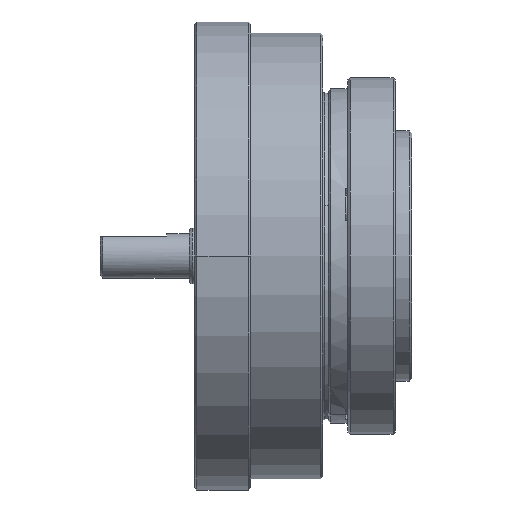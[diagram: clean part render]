
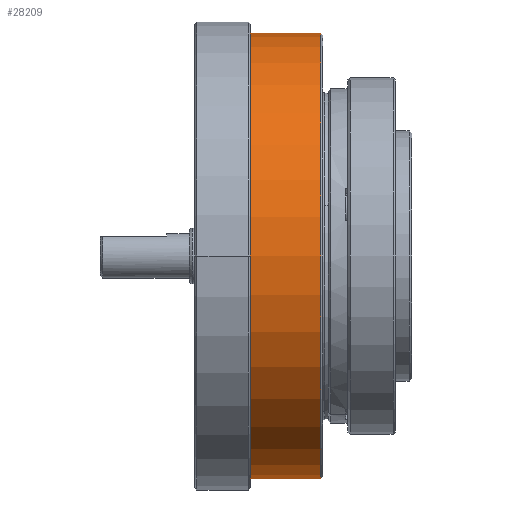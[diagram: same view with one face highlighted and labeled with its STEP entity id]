
A CAD part, front view. The second image highlights one B-rep face of the part: STEP entity #28209.
In plain terms, the highlighted cylindrical face has radius 40 mm (diameter 80 mm), a partial arc.
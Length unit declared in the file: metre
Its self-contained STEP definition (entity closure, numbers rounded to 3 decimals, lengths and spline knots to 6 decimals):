
#310 = VECTOR ( 'NONE', #48403, 1. ) ;
#2903 = CARTESIAN_POINT ( 'NONE',  ( 0.0034, 0., 0.04 ) ) ;
#7271 = EDGE_CURVE ( 'NONE', #39264, #31819, #46524, .T. ) ;
#7517 = DIRECTION ( 'NONE',  ( -1., 0., 0. ) ) ;
#7825 = DIRECTION ( 'NONE',  ( -1., 0., 0. ) ) ;
#10265 = ORIENTED_EDGE ( 'NONE', *, *, #7271, .T. ) ;
#10882 = CYLINDRICAL_SURFACE ( 'NONE', #46147, 0.04 ) ;
#10890 = CARTESIAN_POINT ( 'NONE',  ( 0.0034, 0., -0.04 ) ) ;
#11120 = CARTESIAN_POINT ( 'NONE',  ( 0.0034, 0., 0. ) ) ;
#13641 = CARTESIAN_POINT ( 'NONE',  ( 0.003, 0., 0.04 ) ) ;
#14157 = EDGE_CURVE ( 'NONE', #54170, #45267, #44643, .T. ) ;
#17303 = LINE ( 'NONE', #13641, #53701 ) ;
#17548 = CIRCLE ( 'NONE', #51563, 0.04 ) ;
#17923 = DIRECTION ( 'NONE',  ( -1., 0., 0. ) ) ;
#20641 = CARTESIAN_POINT ( 'NONE',  ( 0.0034, 0., 0. ) ) ;
#21006 = CARTESIAN_POINT ( 'NONE',  ( 0.0186, 0., -0.04 ) ) ;
#23904 = ORIENTED_EDGE ( 'NONE', *, *, #25024, .F. ) ;
#25024 = EDGE_CURVE ( 'NONE', #39264, #38490, #49605, .T. ) ;
#28209 = ADVANCED_FACE ( 'NONE', ( #52534 ), #10882, .T. ) ;
#30064 = AXIS2_PLACEMENT_3D ( 'NONE', #20641, #40087, #58620 ) ;
#31819 = VERTEX_POINT ( 'NONE', #40918 ) ;
#33995 = ORIENTED_EDGE ( 'NONE', *, *, #14157, .T. ) ;
#35311 = CARTESIAN_POINT ( 'NONE',  ( 0.003, 0., -0.04 ) ) ;
#37888 = DIRECTION ( 'NONE',  ( 0., 0., 1. ) ) ;
#38490 = VERTEX_POINT ( 'NONE', #10890 ) ;
#39264 = VERTEX_POINT ( 'NONE', #21006 ) ;
#40087 = DIRECTION ( 'NONE',  ( 1., 0., 0. ) ) ;
#40613 = ORIENTED_EDGE ( 'NONE', *, *, #45476, .T. ) ;
#40918 = CARTESIAN_POINT ( 'NONE',  ( 0.0186, 0., 0.04 ) ) ;
#41543 = CARTESIAN_POINT ( 'NONE',  ( 0.0186, 0., 0. ) ) ;
#43726 = ORIENTED_EDGE ( 'NONE', *, *, #58537, .T. ) ;
#44336 = CARTESIAN_POINT ( 'NONE',  ( 0.0034, -0.04, 0. ) ) ;
#44643 = CIRCLE ( 'NONE', #30064, 0.04 ) ;
#45267 = VERTEX_POINT ( 'NONE', #44336 ) ;
#45476 = EDGE_CURVE ( 'NONE', #45267, #38490, #17548, .T. ) ;
#46124 = DIRECTION ( 'NONE',  ( 0., 0., 1. ) ) ;
#46147 = AXIS2_PLACEMENT_3D ( 'NONE', #57387, #7517, #48013 ) ;
#46524 = CIRCLE ( 'NONE', #49483, 0.04 ) ;
#46945 = EDGE_LOOP ( 'NONE', ( #23904, #10265, #43726, #33995, #40613 ) ) ;
#47648 = DIRECTION ( 'NONE',  ( 1., 0., 0. ) ) ;
#48013 = DIRECTION ( 'NONE',  ( 0., 0., 1. ) ) ;
#48403 = DIRECTION ( 'NONE',  ( -1., 0., 0. ) ) ;
#49483 = AXIS2_PLACEMENT_3D ( 'NONE', #41543, #7825, #46124 ) ;
#49605 = LINE ( 'NONE', #35311, #310 ) ;
#51563 = AXIS2_PLACEMENT_3D ( 'NONE', #11120, #47648, #37888 ) ;
#52534 = FACE_OUTER_BOUND ( 'NONE', #46945, .T. ) ;
#53701 = VECTOR ( 'NONE', #17923, 1. ) ;
#54170 = VERTEX_POINT ( 'NONE', #2903 ) ;
#57387 = CARTESIAN_POINT ( 'NONE',  ( 0.003, 0., 0. ) ) ;
#58537 = EDGE_CURVE ( 'NONE', #31819, #54170, #17303, .T. ) ;
#58620 = DIRECTION ( 'NONE',  ( 0., 0., 1. ) ) ;
